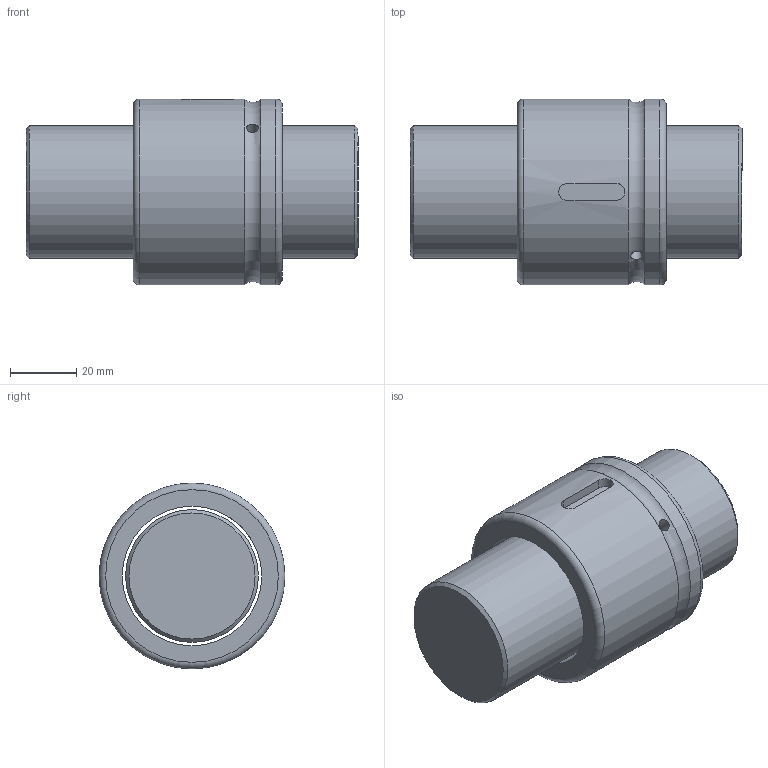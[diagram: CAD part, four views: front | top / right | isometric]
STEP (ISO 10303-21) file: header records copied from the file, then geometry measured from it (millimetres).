
FILE_DESCRIPTION(/* description */ (''),/* implementation_level */ '2;1');
FILE_NAME(/* name */ 'SCI4005',/* time_stamp */ '2007-10-26T13:19:35+08:00',/* author */ (''),/* organization */ (''),/* preprocessor_version */ 'ST-DEVELOPER v9',/* originating_system */ 'EDS PLM SOLUTIONS - UNIGRAPHICS NX 1.0',/* authorisation */ '');
FILE_SCHEMA (('CONFIG_CONTROL_DESIGN'));
Length unit declared in the file: millimetre
Products named in the file (1): FANNDA0400hn
Bounding box: 100 x 56 x 56 mm (x, y, z)
Volume: 172798.2 mm3; surface area: 30883.6 mm2
Topology: 2 solids, 2 shells, 19 faces, 37 edges, 23 vertices
Faces by surface type: plane 7, cylinder 7, torus 3, cone 2
Full cylindrical faces by diameter (mm): 3.5 x1, 40 x1, 42 x1, 56 x2
Entity records: 602 total; most frequent: CARTESIAN_POINT 160, DIRECTION 76, ORIENTED_EDGE 52, EDGE_LOOP 34, AXIS2_PLACEMENT_3D 34, EDGE_CURVE 26, FACE_BOUND 23, VERTEX_POINT 22
